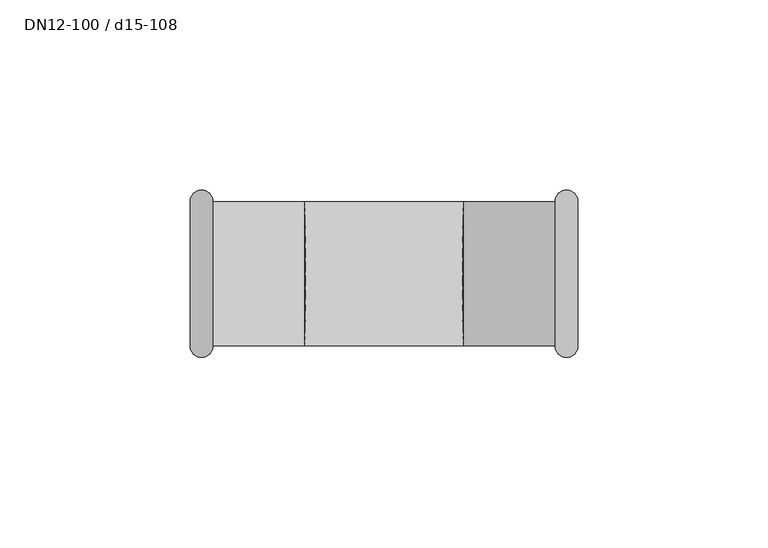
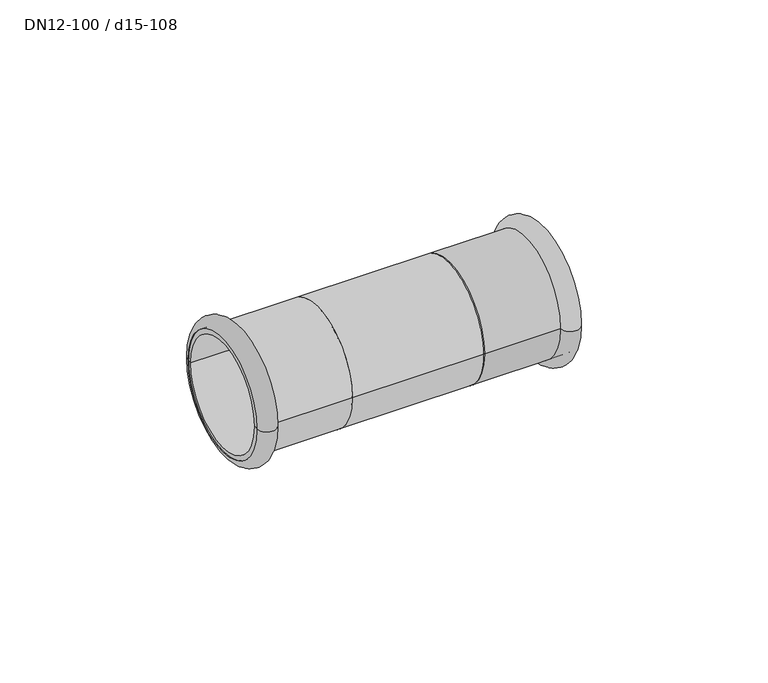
"""IFC4 building model written with IfcOpenShell, lengths in millimetres: pipe fitting geometry, NLRS_50_PIF_UN_Mapress koper overschuifsok_geb : DN12-100 / d15-108."""

from ifc_helpers import new_model, si_unit, point, frame, origin, origin_2d, place, context, project, spatial, polyline, circle_curve, ellipse_curve, trimmed, segment, composite_curve, outline, extrude, source, transform, mapped, element, save
from ifc_brep_helpers import plane_surface, cylinder_surface, revolved_surface, advanced_brep


def dn12_100_d15_108_5494abe6(model_context):
    return source(origin(), model_context, "Body", "SolidModel", [
        advanced_brep(
        [(-51.0, 19.0, 0.0), (-51.0, -19.0, 0.0), (-44.9987073, -19.0, 0.0), (-44.9987073, 19.0, 0.0)],
        [
            (0, 1, circle_curve(frame((-51.0, 0.0, 0.0), z_axis=(-1.0, 0.0, 0.0), x_axis=(0.0, -1.0, 0.0)), 19.0)),
            (1, 2),
            (2, 3, circle_curve(frame((-44.9987073, 0.0, 0.0), z_axis=(1.0, 0.0, 0.0), x_axis=(0.0, -1.0, 0.0)), 19.0)),
            (3, 0),
            (1, 0, circle_curve(frame((-51.0, 0.0, 0.0), z_axis=(-1.0, 0.0, 0.0), x_axis=(0.0, -1.0, 0.0)), 19.0)),
            (3, 2, circle_curve(frame((-44.9987073, 0.0, 0.0), z_axis=(1.0, 0.0, 0.0), x_axis=(0.0, -1.0, 0.0)), 19.0)),
            (2, 1, circle_curve(frame((-47.9993536, -19.0, 0.0), z_axis=(0.0, 0.0, -1.0), x_axis=(-1.0, 0.0, 0.0)), 3.0006464)),
            (0, 3, circle_curve(frame((-47.9993536, 19.0, 0.0), z_axis=(0.0, 0.0, -1.0), x_axis=(-1.0, 0.0, 0.0)), 3.0006464)),
        ],
        [
            revolved_surface(polyline([(-44.9987073, -19.0, 0.0), (-51.0, -19.0, 0.0)]), (-21.0, 0.0, 0.0), (1.0, 0.0, 0.0)),
            revolved_surface(trimmed(ellipse_curve(frame((-47.9993536, -19.0, 0.0), z_axis=(0.0, 0.0, 1.0), x_axis=(-1.0, 0.0, 0.0)), 3.0006464, 3.0006464), [point((-51.0, -19.0, 0.0))], [point((-44.9987073, -19.0, 0.0))], True, "CARTESIAN"), (-21.0, 0.0, 0.0), (1.0, 0.0, 0.0)),
        ],
        [
            (0, [[1, 2, 3, 4]]),
            (0, [[5, -4, 6, -2]]),
            (1, [[-3, 7, -1, 8]]),
            (1, [[-6, -8, -5, -7]]),
        ],
    ),
        advanced_brep(
        [(-51.0, 17.5, 0.0), (-51.0, -17.5, 0.0), (-20.0, -17.5, 0.0), (-20.0, 17.5, 0.0), (-51.0, 19.0, 0.0), (-51.0, -19.0, 0.0), (-21.0, 19.0, 0.0), (-21.0, -19.0, 0.0)],
        [
            (0, 1, circle_curve(frame((-51.0, 0.0, 0.0), z_axis=(-1.0, 0.0, 0.0), x_axis=(0.0, -1.0, 0.0)), 17.5)),
            (1, 2),
            (2, 3, circle_curve(frame((-20.0, 0.0, 0.0), z_axis=(1.0, 0.0, 0.0), x_axis=(0.0, -1.0, 0.0)), 17.5)),
            (3, 0),
            (1, 0, circle_curve(frame((-51.0, 0.0, 0.0), z_axis=(-1.0, 0.0, 0.0), x_axis=(0.0, -1.0, 0.0)), 17.5)),
            (3, 2, circle_curve(frame((-20.0, 0.0, 0.0), z_axis=(1.0, 0.0, 0.0), x_axis=(0.0, -1.0, 0.0)), 17.5)),
            (4, 5, circle_curve(frame((-51.0, 0.0, 0.0), z_axis=(-1.0, 0.0, 0.0), x_axis=(0.0, -1.0, 0.0)), 19.0)),
            (5, 1),
            (0, 4),
            (5, 4, circle_curve(frame((-51.0, 0.0, 0.0), z_axis=(-1.0, 0.0, 0.0), x_axis=(0.0, -1.0, 0.0)), 19.0)),
            (6, 7, circle_curve(frame((-21.0, 0.0, 0.0), z_axis=(-1.0, 0.0, 0.0), x_axis=(0.0, -1.0, 0.0)), 19.0)),
            (7, 5),
            (4, 6),
            (7, 6, circle_curve(frame((-21.0, 0.0, 0.0), z_axis=(-1.0, 0.0, 0.0), x_axis=(0.0, -1.0, 0.0)), 19.0)),
            (2, 7),
            (6, 3),
        ],
        [
            revolved_surface(polyline([(-20.0, -17.5, 0.0), (-51.0, -17.5, 0.0)]), (-21.0, 0.0, 0.0), (1.0, 0.0, 0.0)),
            plane_surface(frame((-51.0, 0.0, 0.0), z_axis=(-1.0, 0.0, 0.0), x_axis=(0.0, -1.0, 0.0))),
            cylinder_surface(frame((-21.0, 0.0, 0.0), z_axis=(1.0, 0.0, 0.0), x_axis=(0.0, -1.0, 0.0)), 19.0),
            revolved_surface(polyline([(-21.0, -19.0, 0.0), (-20.0, -17.5, 0.0)]), (-21.0, 0.0, 0.0), (1.0, 0.0, 0.0)),
        ],
        [
            (0, [[1, 2, 3, 4]]),
            (0, [[5, -4, 6, -2]]),
            (1, [[7, 8, -1, 9]]),
            (1, [[10, -9, -5, -8]]),
            (2, [[11, 12, -7, 13]]),
            (2, [[14, -13, -10, -12]]),
            (3, [[-3, 15, -11, 16]]),
            (3, [[-6, -16, -14, -15]]),
        ],
    ),
        advanced_brep(
        [(51.0, -19.0, 0.0), (51.0, 19.0, 0.0), (44.9987073, 19.0, 0.0), (44.9987073, -19.0, 0.0)],
        [
            (0, 1, circle_curve(frame((51.0, 0.0, 0.0), z_axis=(1.0, 0.0, 0.0), x_axis=(0.0, 1.0, 0.0)), 19.0)),
            (1, 2),
            (2, 3, circle_curve(frame((44.9987073, 0.0, 0.0), z_axis=(-1.0, 0.0, 0.0), x_axis=(0.0, 1.0, 0.0)), 19.0)),
            (3, 0),
            (1, 0, circle_curve(frame((51.0, 0.0, 0.0), z_axis=(1.0, 0.0, 0.0), x_axis=(0.0, 1.0, 0.0)), 19.0)),
            (3, 2, circle_curve(frame((44.9987073, 0.0, 0.0), z_axis=(-1.0, 0.0, 0.0), x_axis=(0.0, 1.0, 0.0)), 19.0)),
            (2, 1, circle_curve(frame((47.9993536, 19.0, 0.0), z_axis=(0.0, 0.0, -1.0), x_axis=(1.0, 0.0, 0.0)), 3.0006464)),
            (0, 3, circle_curve(frame((47.9993536, -19.0, 0.0), z_axis=(0.0, 0.0, -1.0), x_axis=(1.0, 0.0, 0.0)), 3.0006464)),
        ],
        [
            revolved_surface(polyline([(44.9987073, 19.0, 0.0), (51.0, 19.0, 0.0)]), (21.0, 0.0, 0.0), (-1.0, 0.0, 0.0)),
            revolved_surface(trimmed(ellipse_curve(frame((47.9993536, 19.0, 0.0), z_axis=(0.0, 0.0, 1.0), x_axis=(1.0, 0.0, 0.0)), 3.0006464, 3.0006464), [point((51.0, 19.0, 0.0))], [point((44.9987073, 19.0, 0.0))], True, "CARTESIAN"), (21.0, 0.0, 0.0), (-1.0, 0.0, 0.0)),
        ],
        [
            (0, [[1, 2, 3, 4]]),
            (0, [[5, -4, 6, -2]]),
            (1, [[-3, 7, -1, 8]]),
            (1, [[-6, -8, -5, -7]]),
        ],
    ),
        advanced_brep(
        [(51.0, -17.5, 0.0), (51.0, 17.5, 0.0), (20.0, 17.5, 0.0), (20.0, -17.5, 0.0), (51.0, -19.0, 0.0), (51.0, 19.0, 0.0), (21.0, -19.0, 0.0), (21.0, 19.0, 0.0)],
        [
            (0, 1, circle_curve(frame((51.0, 0.0, 0.0), z_axis=(1.0, 0.0, 0.0), x_axis=(0.0, 1.0, 0.0)), 17.5)),
            (1, 2),
            (2, 3, circle_curve(frame((20.0, 0.0, 0.0), z_axis=(-1.0, 0.0, 0.0), x_axis=(0.0, 1.0, 0.0)), 17.5)),
            (3, 0),
            (1, 0, circle_curve(frame((51.0, 0.0, 0.0), z_axis=(1.0, 0.0, 0.0), x_axis=(0.0, 1.0, 0.0)), 17.5)),
            (3, 2, circle_curve(frame((20.0, 0.0, 0.0), z_axis=(-1.0, 0.0, 0.0), x_axis=(0.0, 1.0, 0.0)), 17.5)),
            (4, 5, circle_curve(frame((51.0, 0.0, 0.0), z_axis=(1.0, 0.0, 0.0), x_axis=(0.0, 1.0, 0.0)), 19.0)),
            (5, 1),
            (0, 4),
            (5, 4, circle_curve(frame((51.0, 0.0, 0.0), z_axis=(1.0, 0.0, 0.0), x_axis=(0.0, 1.0, 0.0)), 19.0)),
            (6, 7, circle_curve(frame((21.0, 0.0, 0.0), z_axis=(1.0, 0.0, 0.0), x_axis=(0.0, 1.0, 0.0)), 19.0)),
            (7, 5),
            (4, 6),
            (7, 6, circle_curve(frame((21.0, 0.0, 0.0), z_axis=(1.0, 0.0, 0.0), x_axis=(0.0, 1.0, 0.0)), 19.0)),
            (2, 7),
            (6, 3),
        ],
        [
            revolved_surface(polyline([(20.0, 17.5, 0.0), (51.0, 17.5, 0.0)]), (21.0, 0.0, 0.0), (-1.0, 0.0, 0.0)),
            plane_surface(frame((51.0, 0.0, 0.0), z_axis=(1.0, 0.0, 0.0), x_axis=(0.0, 1.0, 0.0))),
            cylinder_surface(frame((21.0, 0.0, 0.0), z_axis=(-1.0, 0.0, 0.0), x_axis=(0.0, 1.0, 0.0)), 19.0),
            revolved_surface(polyline([(21.0, 19.0, 0.0), (20.0, 17.5, 0.0)]), (21.0, 0.0, 0.0), (-1.0, 0.0, 0.0)),
        ],
        [
            (0, [[1, 2, 3, 4]]),
            (0, [[5, -4, 6, -2]]),
            (1, [[7, 8, -1, 9]]),
            (1, [[10, -9, -5, -8]]),
            (2, [[11, 12, -7, 13]]),
            (2, [[14, -13, -10, -12]]),
            (3, [[-3, 15, -11, 16]]),
            (3, [[-6, -16, -14, -15]]),
        ],
    ),
        extrude(outline(composite_curve([segment(trimmed(circle_curve(origin_2d(), 19.0), [point((-19.0, 0.0))], [point((19.0, 0.0))], False, "CARTESIAN"), True, "CONTINUOUS"), segment(trimmed(circle_curve(origin_2d(), 19.0), [point((19.0, 0.0))], [point((-19.0, 0.0))], False, "CARTESIAN"), True, "CONTINUOUS")], self_intersect=False)), frame((-21.0, 0.0, 0.0), z_axis=(1.0, 0.0, 0.0), x_axis=(0.0, 1.0, 0.0)), (0.0, 0.0, 1.0), 42.0),
    ])


if __name__ == "__main__":
    model = new_model("IFC4")
    model_context = context("Model", 3, world=origin())
    ifc_project = project(units=[si_unit("LENGTHUNIT", "METRE", prefix="MILLI")], contexts=[model_context])
    site = spatial("IfcSite", under=ifc_project)
    building = spatial("IfcBuilding", under=site)
    placement = place(None, origin())
    dn12_100_d15_108_shape = dn12_100_d15_108_5494abe6(model_context)
    element("IfcPipeFitting", 1, ObjectType="NLRS_50_PIF_UN_Mapress koper overschuifsok_geb : DN12-100 / d15-108", at=placement, inside=building, context=model_context, shape_type="MappedRepresentation", body=[
        mapped(dn12_100_d15_108_shape, transform((0.0, 0.0, 0.0), x_axis=(1.0, 0.0, 0.0), y_axis=(0.0, 1.0, 0.0), z_axis=(0.0, 0.0, 1.0))),
    ])
    save(model, "model.ifc")
